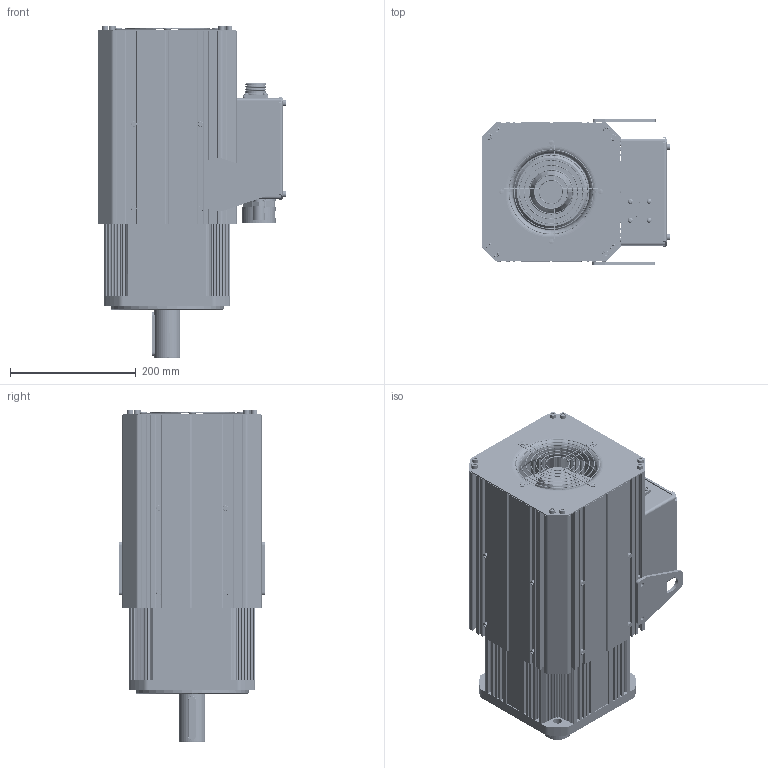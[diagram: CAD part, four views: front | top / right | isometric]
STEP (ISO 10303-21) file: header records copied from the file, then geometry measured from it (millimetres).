
FILE_DESCRIPTION((''),'2;1');
FILE_NAME('ASM0001_ASM','2019-12-12T',('JWDQ'),(''),'CREO PARAMETRIC BY PTC INC, 2014050','CREO PARAMETRIC BY PTC INC, 2014050','');
FILE_SCHEMA(('CONFIG_CONTROL_DESIGN'));
Products named in the file (65): QDG_10600-00001_1_1_2_3_4; ZZ_12400-02003_13KW_1_1_2_3_4; ZC_30400-00001_1_1_2_3_4; ZC_30400-01002_1_1_2_3_4; ZCZDQ_11200-00001_1_1_2_3_4; ZZZJ_80500-02003_13KW_ASM_2_A_4_ASM; O-RING_50000-01002_1_1_2_3_4; M6X35_1_1_2_3_4; ZCYG_10900-00001_1_1_2_3_4; JK_10200-45046_13KW_5_1; DZZJ_80200-02003_13KW_ASM_2_A_4_ASM; MANIFOLD_SOLID_BREP_53217_1; MANIFOLD_SOLID_BREP_62068_1; MANIFOLD_SOLID_BREP_70403_1; MANIFOLD_SOLID_BREP_78738_1; FDB_12900-61062_13KW_6_ASM_1_ASM; DEGDT_11500-02003_1_1_2_3_4; DE_11300-00001_1_1_2_3_4; O-RING_50000-02003_1_1_2_3_4; YXHQ_20300-00001_1_1_2_3_4; O-RING_50000-03004_1_1_2_3_4; JXHT_41000-09010_1_1_2_3_4; JXHG_41000-00001_1_1_2_3_4; JXHGDK_11600-04005_1_1_2_3_4; M6X10_1_1_2_3_4; XJD_50800-11012_1_1_2_3_4; AD13_1_1_1_2_3_4; AD42P5_3_1_1_2_3_4; MFD_YD28-15P_1_1_2_3_4; HKXZ_YD28-15P_40100-00001_1_1_4; PDLD_4X12_1_1_2_3_4; JXHZJ_81100-00002_ASM_1_ASM_1_4_ASM; M5X25_1_1_2_3_4; HDG_21200-00001_1_1_2_3_4; M8X30_1_1_2_3_4; HGB_21600-00001_1_1_2_3_4; M4X10_1_1_2_3_4; MANIFOLD_SOLID_BREP_152778_1; MANIFOLD_SOLID_BREP_153174_1; FJ_40000-03004_1_ASM_1_2_3_4_ASM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
Assembly tree (138 placements, depth 6):
  ASM0001_ASM
    SV-MH20-015B-X-XA0-1000_ASM_1_2_ASM
      K072F18C18P_ASM_3_ASM_1_2_ASM
        QDG_10600-00001_1_1_2_3_4
        ZZZJ_80500-02003_13KW_ASM_2_A_4_ASM
          ZZ_12400-02003_13KW_1_1_2_3_4
          ZC_30400-00001_1_1_2_3_4
          ZC_30400-01002_1_1_2_3_4
          ZCZDQ_11200-00001_1_1_2_3_4
        O-RING_50000-01002_1_1_2_3_4
        M6X35_1_1_2_3_4  x4
        ZCYG_10900-00001_1_1_2_3_4
        DZZJ_80200-02003_13KW_ASM_2_A_4_ASM
          JK_10200-45046_13KW_5_1
        FDB_12900-61062_13KW_6_ASM_1_ASM
          MANIFOLD_SOLID_BREP_53217_1
          MANIFOLD_SOLID_BREP_62068_1
          MANIFOLD_SOLID_BREP_70403_1
          MANIFOLD_SOLID_BREP_78738_1
        DEGDT_11500-02003_1_1_2_3_4  x2
        DE_11300-00001_1_1_2_3_4  x2
        O-RING_50000-02003_1_1_2_3_4
        YXHQ_20300-00001_1_1_2_3_4
        O-RING_50000-03004_1_1_2_3_4
        JXHZJ_81100-00002_ASM_1_ASM_1_4_ASM
          JXHT_41000-09010_1_1_2_3_4
          JXHG_41000-00001_1_1_2_3_4
          JXHGDK_11600-04005_1_1_2_3_4  x4
          M6X10_1_1_2_3_4  x8
          XJD_50800-11012_1_1_2_3_4
          AD13_1_1_1_2_3_4
          AD42P5_3_1_1_2_3_4
          MFD_YD28-15P_1_1_2_3_4
          HKXZ_YD28-15P_40100-00001_1_1_4
          PDLD_4X12_1_1_2_3_4  x4
        M5X25_1_1_2_3_4  x16
        HDG_21200-00001_1_1_2_3_4
        M8X30_1_1_2_3_4  x16
        HGB_21600-00001_1_1_2_3_4
        M4X10_1_1_2_3_4  x10
        FJ_40000-03004_1_ASM_1_2_3_4_ASM
          MANIFOLD_SOLID_BREP_152778_1
          MANIFOLD_SOLID_BREP_153174_1
        M4X12_1_1_2_3_4  x4
        FJFHBZZ_ASM_1_ASM_1_2_3_4_ASM
          FJFHB_11100-02003_1_1_2_3_4
          FHW_30500-00001_1_ASM_1_2_3_4_ASM
            MANIFOLD_SOLID_BREP_155502_1
            MANIFOLD_SOLID_BREP_155608_1
            MANIFOLD_SOLID_BREP_155714_1
            MANIFOLD_SOLID_BREP_156004_1
            MANIFOLD_SOLID_BREP_156294_1
            MANIFOLD_SOLID_BREP_156584_1
            MANIFOLD_SOLID_BREP_156874_1
            MANIFOLD_SOLID_BREP_156980_1
            MANIFOLD_SOLID_BREP_157086_1
            MANIFOLD_SOLID_BREP_157192_1
            MANIFOLD_SOLID_BREP_157298_1
          PDQ_4_1_1_2_3_4  x4
          MD_4_1_1_2_3_4  x4
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Bounding box: 300.5 x 231.5 x 528 mm (x, y, z)
Volume: 7148274.5 mm3; surface area: 2617758.9 mm2
Topology: 129 solids, 129 shells, 6056 faces, 17723 edges, 12118 vertices
Faces by surface type: plane 2944, cylinder 2351, cone 372, torus 287, bspline 84, sphere 18
Entity records: 176891 total; most frequent: CARTESIAN_POINT 41914, ORIENTED_EDGE 28670, DIRECTION 28585, EDGE_CURVE 14335, AXIS2_PLACEMENT_3D 10452, VERTEX_POINT 9905, VECTOR 7681, LINE 7681
